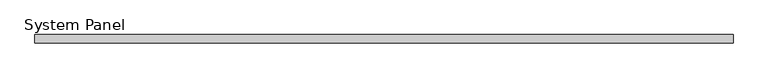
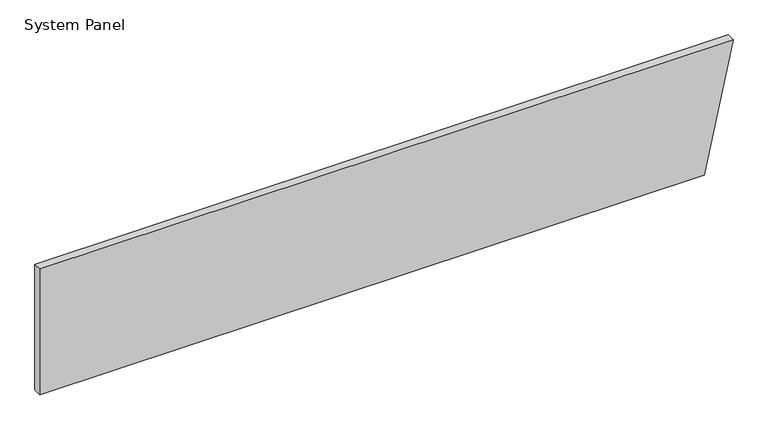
"""IFC4 building model written with IfcOpenShell, lengths in millimetres: plate geometry, System Panel : Equitilt_FlameGuard_75mm_Plain_Surfmist."""

from ifc_helpers import new_model, si_unit, frame, origin, place, context, project, spatial, polyline, outline, extrude, source, transform, mapped, element, save


def system_panel_575ef650(model_context):
    return source(origin(), model_context, "Body", "SweptSolid", [
        extrude(outline(polyline([(0.0, -3125.4358309), (0.0, 2864.5641691), (1200.0, 3125.4358309), (1200.0, -3125.4358309), (0.0, -3125.4358309)])), frame((0.0, -75.0, 0.0), z_axis=(0.0, 1.0, 0.0), x_axis=(0.0, 0.0, 1.0)), (0.0, 0.0, 1.0), 75.0),
    ])


if __name__ == "__main__":
    model = new_model("IFC4")
    model_context = context("Model", 3, world=origin())
    ifc_project = project(units=[si_unit("LENGTHUNIT", "METRE", prefix="MILLI")], contexts=[model_context])
    site = spatial("IfcSite", under=ifc_project)
    building = spatial("IfcBuilding", under=site)
    placement = place(None, origin())
    system_panel_shape = system_panel_575ef650(model_context)
    element("IfcPlate", 1, ObjectType="System Panel : Equitilt_FlameGuard_75mm_Plain_Surfmist", at=placement, inside=building, context=model_context, shape_type="MappedRepresentation", body=[
        mapped(system_panel_shape, transform((0.0, 0.0, 0.0), x_axis=(1.0, 0.0, 0.0), y_axis=(0.0, 1.0, 0.0), z_axis=(0.0, 0.0, 1.0))),
    ])
    save(model, "model.ifc")
